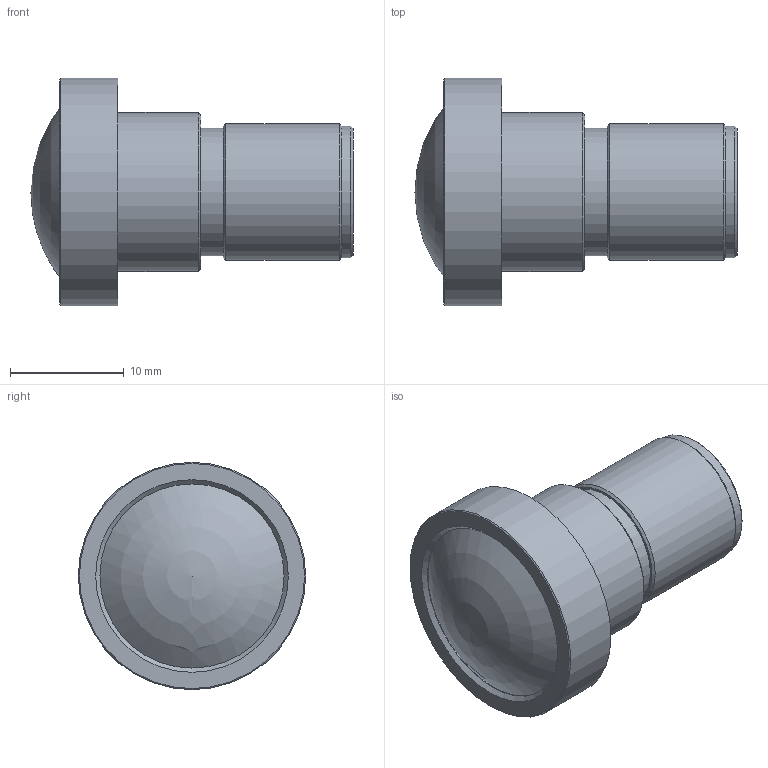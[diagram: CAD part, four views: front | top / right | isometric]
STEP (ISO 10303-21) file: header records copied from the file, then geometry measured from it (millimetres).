
FILE_DESCRIPTION(/* description */ (''),/* implementation_level */ '2;1');
FILE_NAME(/* name */ 'C:\Users\MaxHenkart\Desktop\Commonlands\Product\CIL052\CIL052-F4.0-M12A650.stp',/* time_stamp */ '2024-10-31T08:43:27-07:00',/* author */ ('MaxHenkart'),/* organization */ (''),/* preprocessor_version */ 'ST-DEVELOPER v19',/* originating_system */ 'Autodesk Inventor 2023',/* authorisation */ '');
FILE_SCHEMA (('AUTOMOTIVE_DESIGN { 1 0 10303 214 3 1 1 }'));
Length unit declared in the file: millimetre
Products named in the file (1): PRT0001
Bounding box: 28.34 x 20 x 20 mm (x, y, z)
Volume: 4425.6 mm3; surface area: 1817.4 mm2
Topology: 1 solids, 1 shells, 18 faces, 36 edges, 23 vertices
Faces by surface type: cylinder 6, cone 6, plane 5, sphere 1
Full cylindrical faces by diameter (mm): 11.2 x1, 11.6 x1, 12 x1, 14 x1, 16.2 x1, 20 x1
Entity records: 517 total; most frequent: DIRECTION 96, CARTESIAN_POINT 77, ORIENTED_EDGE 70, AXIS2_PLACEMENT_3D 42, EDGE_CURVE 35, CIRCLE 23, VERTEX_POINT 23, EDGE_LOOP 22
